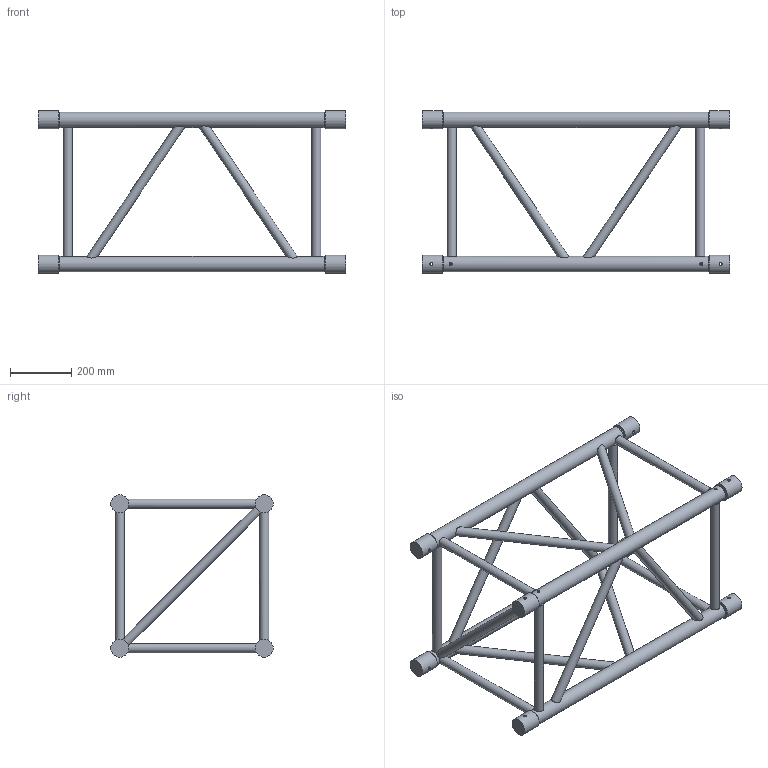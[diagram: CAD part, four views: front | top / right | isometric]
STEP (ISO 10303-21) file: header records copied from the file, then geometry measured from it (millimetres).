
FILE_DESCRIPTION(/* description */ (''),/* implementation_level */ '2;1');
FILE_NAME(/* name */ 'M:\Symbolen_NIEUW\STP\52-er truss\111110104.stp',/* time_stamp */ '2015-04-20T14:35:57+02:00',/* author */ ('Stephan'),/* organization */ (''),/* preprocessor_version */ 'ST-DEVELOPER v15.6',/* originating_system */ 'Autodesk Inventor 2015',/* authorisation */ '');
FILE_SCHEMA (('AUTOMOTIVE_DESIGN { 1 0 10303 214 3 1 1 }'));
Length unit declared in the file: millimetre
Products named in the file (1): 160023905
Bounding box: 1000 x 528.8 x 528.8 mm (x, y, z)
Volume: 14327957.4 mm3; surface area: 1503221.5 mm2
Topology: 1 solids, 1 shells, 242 faces, 616 edges, 386 vertices
Faces by surface type: plane 132, cylinder 70, cone 40
Full cylindrical faces by diameter (mm): 10 x8, 30 x18, 50 x4, 58.8 x8
Entity records: 9605 total; most frequent: CARTESIAN_POINT 3563, DIRECTION 1190, ORIENTED_EDGE 1136, EDGE_CURVE 544, AXIS2_PLACEMENT_3D 531, VERTEX_POINT 376, EDGE_LOOP 360, STYLED_ITEM 243
